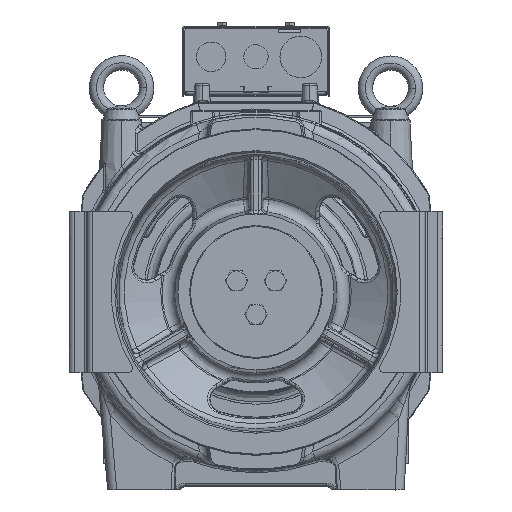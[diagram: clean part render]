
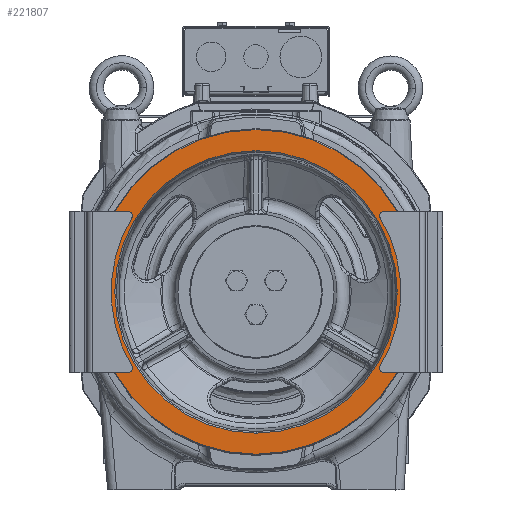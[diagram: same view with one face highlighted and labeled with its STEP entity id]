
A CAD part, top view. The second image highlights one B-rep face of the part: STEP entity #221807.
In plain terms, the highlighted planar face has unit normal (0, 0, 1) as drawn and (0, 1, 0) by its records, which use the part's own axes.
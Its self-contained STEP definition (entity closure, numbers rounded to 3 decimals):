
#201614=CARTESIAN_POINT('',(0.,86.,0.));
#201615=DIRECTION('',(0.,-1.,0.));
#201616=DIRECTION('',(0.,0.,-1.));
#201617=AXIS2_PLACEMENT_3D('',#201614,#201615,#201616);
#201619=CARTESIAN_POINT('',(0.,86.,0.));
#201620=DIRECTION('',(0.,-1.,0.));
#201621=DIRECTION('',(0.,0.,1.));
#201622=AXIS2_PLACEMENT_3D('',#201619,#201620,#201621);
#201624=CARTESIAN_POINT('',(0.,86.,0.));
#201625=DIRECTION('',(0.,1.,0.));
#201626=DIRECTION('',(0.,0.,-1.));
#201627=AXIS2_PLACEMENT_3D('',#201624,#201625,#201626);
#201629=CARTESIAN_POINT('',(0.,86.,0.));
#201630=DIRECTION('',(0.,1.,0.));
#201631=DIRECTION('',(0.,0.,1.));
#201632=AXIS2_PLACEMENT_3D('',#201629,#201630,#201631);
#201634=CARTESIAN_POINT('',(0.,86.,0.));
#201635=DIRECTION('',(0.,-1.,0.));
#201636=DIRECTION('',(0.,0.,1.));
#201637=AXIS2_PLACEMENT_3D('',#201634,#201635,#201636);
#201654=CARTESIAN_POINT('',(0.,86.,0.));
#201655=DIRECTION('',(0.,-1.,0.));
#201656=DIRECTION('',(0.,0.,-1.));
#201657=AXIS2_PLACEMENT_3D('',#201654,#201655,#201656);
#202592=CARTESIAN_POINT('',(0.,86.,181.));
#202593=VERTEX_POINT('',#202592);
#202594=CARTESIAN_POINT('',(0.,86.,-181.));
#202595=VERTEX_POINT('',#202594);
#202596=CARTESIAN_POINT('',(0.,86.,157.531));
#202597=CARTESIAN_POINT('',(-0.151,86.,157.531));
#202598=VERTEX_POINT('',#202596);
#202599=VERTEX_POINT('',#202597);
#202600=CARTESIAN_POINT('',(0.,86.,-157.531));
#202601=VERTEX_POINT('',#202600);
#202602=CARTESIAN_POINT('',(0.151,86.,-157.531));
#202603=VERTEX_POINT('',#202602);
#221788=CARTESIAN_POINT('',(0.,86.,0.));
#221789=DIRECTION('',(0.,1.,0.));
#221790=DIRECTION('',(0.,0.,-1.));
#221791=AXIS2_PLACEMENT_3D('',#221788,#221789,#221790);
#221792=PLANE('',#221791);
#221793=ORIENTED_EDGE('',*,*,#221768,.T.);
#221794=ORIENTED_EDGE('',*,*,#221782,.T.);
#221795=EDGE_LOOP('',(#221793,#221794));
#221796=FACE_OUTER_BOUND('',#221795,.F.);
#221798=ORIENTED_EDGE('',*,*,#221797,.T.);
#221800=ORIENTED_EDGE('',*,*,#221799,.F.);
#221802=ORIENTED_EDGE('',*,*,#221801,.T.);
#221804=ORIENTED_EDGE('',*,*,#221803,.F.);
#221805=EDGE_LOOP('',(#221798,#221800,#221802,#221804));
#221806=FACE_BOUND('',#221805,.F.);
#221807=ADVANCED_FACE('',(#221796,#221806),#221792,.T.);
#201618=CIRCLE('',#201617,181.);
#201623=CIRCLE('',#201622,181.);
#201628=CIRCLE('',#201627,157.531);
#201633=CIRCLE('',#201632,157.531);
#201638=CIRCLE('',#201637,157.531);
#201658=CIRCLE('',#201657,157.531);
#221768=EDGE_CURVE('',#202595,#202593,#201618,.T.);
#221782=EDGE_CURVE('',#202593,#202595,#201623,.T.);
#221797=EDGE_CURVE('',#202601,#202599,#201628,.T.);
#221799=EDGE_CURVE('',#202598,#202599,#201638,.T.);
#221801=EDGE_CURVE('',#202598,#202603,#201633,.T.);
#221803=EDGE_CURVE('',#202601,#202603,#201658,.T.);
